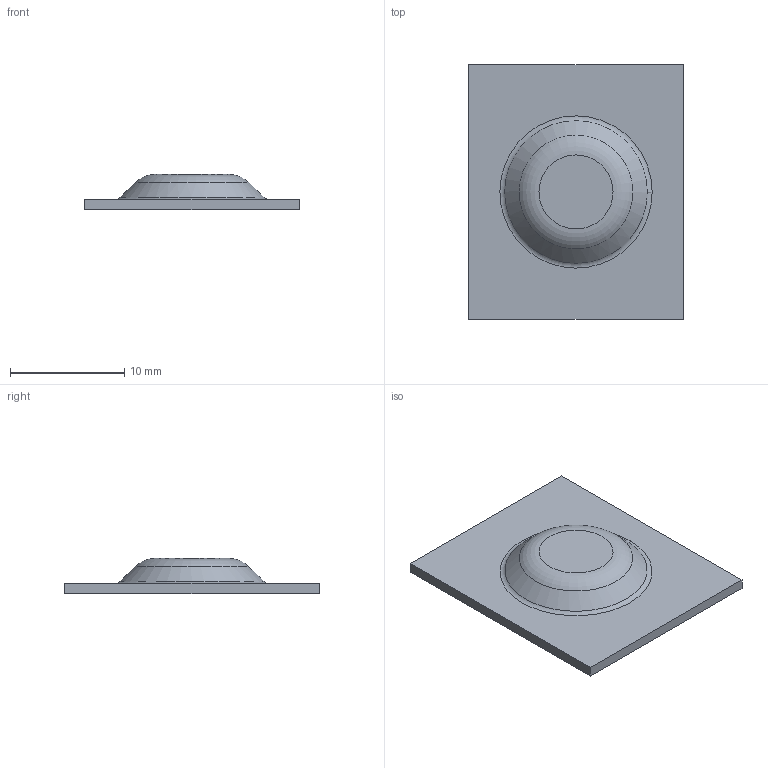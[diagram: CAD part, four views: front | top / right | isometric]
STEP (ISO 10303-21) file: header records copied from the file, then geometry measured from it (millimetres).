
FILE_DESCRIPTION((''),'1');
FILE_NAME('C:/Users/ericfrey/Desktop/407-5881-00-TOOL REV 04.stp', '2016-05-23T16:32:22',(''), (''), 'KCM Version 1.1.1442.0', 'Kubotek KeyCreator', '');
FILE_SCHEMA(('AUTOMOTIVE_DESIGN'));
Length unit declared in the file: inch
Bounding box: 18.8 x 22.3 x 3.07 mm (x, y, z)
Volume: 406 mm3; surface area: 963.1 mm2
Topology: 1 solids, 1 shells, 14 faces, 35 edges, 26 vertices
Faces by surface type: plane 8, torus 4, cone 2
Entity records: 435 total; most frequent: DIRECTION 69, ORIENTED_EDGE 68, CARTESIAN_POINT 66, EDGE_CURVE 34, AXIS2_PLACEMENT_3D 27, VERTEX_POINT 24, EDGE_LOOP 16, VECTOR 15
